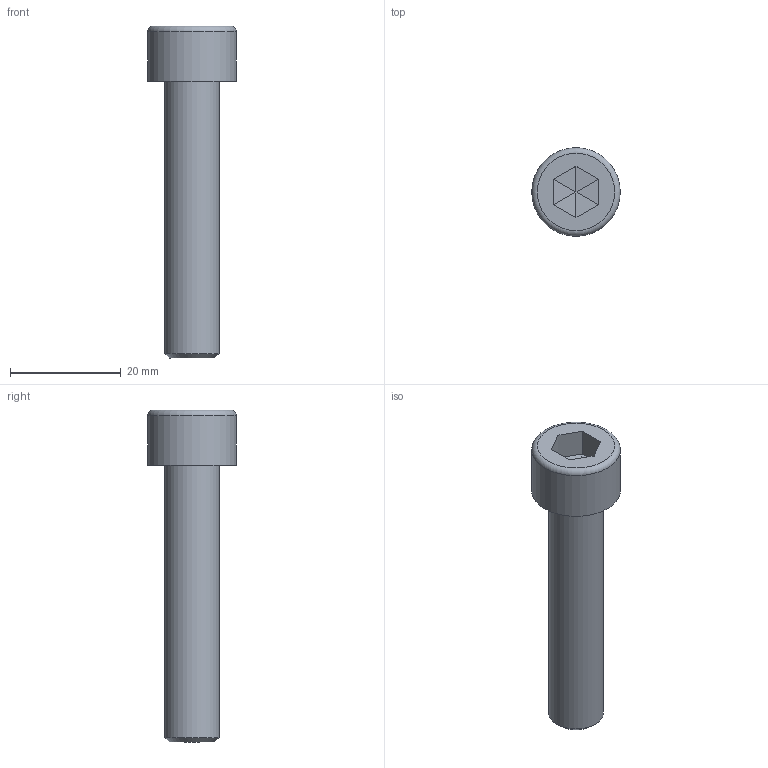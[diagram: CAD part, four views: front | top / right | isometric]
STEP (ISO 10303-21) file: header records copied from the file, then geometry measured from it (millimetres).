
FILE_DESCRIPTION(/* description */ (''),/* implementation_level */ '2;1');
FILE_NAME(/* name */ 'M10 Socket Cap Head Bolt - DIN 912 - A2 Stainless Steel.step',/* time_stamp */ '2024-06-29T05:18:54+03:00',/* author */ (''),/* organization */ (''),/* preprocessor_version */ 'ST-DEVELOPER v20',/* originating_system */ 'Autodesk Translation Framework v13.14.0.145',/* authorisation */ '');
FILE_SCHEMA (('AUTOMOTIVE_DESIGN { 1 0 10303 214 3 1 1 }'));
Length unit declared in the file: millimetre
Products named in the file (2): M10 Socket Cap Head Bolt - DIN 912 - A2 Stainless Steel; Hexagon Socket Head Cap Screw DIN 912 - M10 x 1.5 x 50 Stainless Stee
l A2 Plain v1
Assembly tree (1 placements, depth 2):
  M10 Socket Cap Head Bolt - DIN 912 - A2 Stainless Steel
    Hexagon Socket Head Cap Screw DIN 912 - M10 x 1.5 x 50 Stainless Stee
l A2 Plain v1
Bounding box: 16 x 16 x 60 mm (x, y, z)
Volume: 5517.2 mm3; surface area: 2553.5 mm2
Topology: 1 solids, 1 shells, 19 faces, 34 edges, 19 vertices
Faces by surface type: plane 15, cylinder 2, cone 1, torus 1
Full cylindrical faces by diameter (mm): 9.85 x1, 16 x1
Entity records: 507 total; most frequent: DIRECTION 85, CARTESIAN_POINT 75, ORIENTED_EDGE 68, EDGE_CURVE 34, AXIS2_PLACEMENT_3D 29, LINE 27, VECTOR 27, EDGE_LOOP 21
